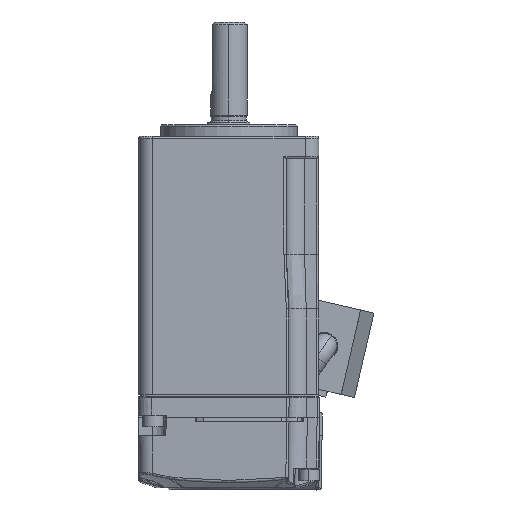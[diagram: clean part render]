
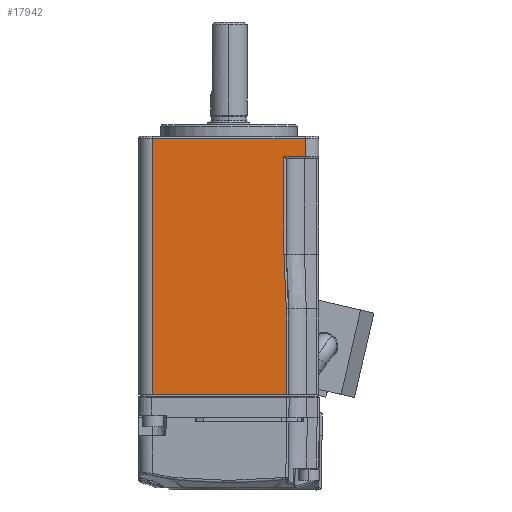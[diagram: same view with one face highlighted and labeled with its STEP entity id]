
A CAD part, front view. The second image highlights one B-rep face of the part: STEP entity #17942.
In plain terms, the highlighted planar face has unit normal (0, -1, 0).
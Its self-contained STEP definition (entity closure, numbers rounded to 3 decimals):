
#971=DIRECTION('',(-1.,0.,0.));
#972=VECTOR('',#971,29.354);
#973=CARTESIAN_POINT('',(33.973,2.019,-81.909));
#974=LINE('',#973,#972);
#975=DIRECTION('',(0.,0.,1.));
#976=VECTOR('',#975,56.2);
#977=CARTESIAN_POINT('',(4.619,2.019,-81.909));
#978=LINE('',#977,#976);
#979=DIRECTION('',(1.,0.,0.));
#980=VECTOR('',#979,33.5);
#981=CARTESIAN_POINT('',(4.619,2.019,-25.709));
#982=LINE('',#981,#980);
#983=CARTESIAN_POINT('',(33.473,2.019,-51.109));
#984=CARTESIAN_POINT('',(33.473,2.019,-51.488));
#985=CARTESIAN_POINT('',(33.481,2.019,-52.245));
#986=CARTESIAN_POINT('',(33.514,2.019,-53.41));
#987=CARTESIAN_POINT('',(33.57,2.019,-54.635));
#988=CARTESIAN_POINT('',(33.646,2.019,-55.949));
#989=CARTESIAN_POINT('',(33.739,2.019,-57.364));
#990=CARTESIAN_POINT('',(33.835,2.019,-58.862));
#991=CARTESIAN_POINT('',(33.916,2.019,-60.381));
#992=CARTESIAN_POINT('',(33.963,2.019,-61.802));
#993=CARTESIAN_POINT('',(33.973,2.019,-62.7));
#994=CARTESIAN_POINT('',(33.973,2.019,-63.109));
#996=DIRECTION('',(0.,0.,1.));
#997=VECTOR('',#996,18.8);
#998=CARTESIAN_POINT('',(33.973,2.019,-81.909));
#999=LINE('',#998,#997);
#1039=DIRECTION('',(0.,0.,1.));
#1040=VECTOR('',#1039,21.4);
#1041=CARTESIAN_POINT('',(33.473,2.019,-51.109));
#1042=LINE('',#1041,#1040);
#1043=DIRECTION('',(1.,0.,0.));
#1044=VECTOR('',#1043,4.646);
#1045=CARTESIAN_POINT('',(33.473,2.019,-29.709));
#1046=LINE('',#1045,#1044);
#1136=DIRECTION('',(0.,0.,1.));
#1137=VECTOR('',#1136,4.);
#1138=CARTESIAN_POINT('',(38.119,2.019,-29.709));
#1139=LINE('',#1138,#1137);
#14163=CARTESIAN_POINT('',(4.619,2.019,
-25.709));
#14164=VERTEX_POINT('',#14163);
#14165=CARTESIAN_POINT('',(38.119,2.019,
-25.709));
#14166=VERTEX_POINT('',#14165);
#14176=CARTESIAN_POINT('',(4.619,2.019,
-81.909));
#14178=VERTEX_POINT('',#14176);
#14179=CARTESIAN_POINT('',(33.973,2.019,
-81.909));
#14181=VERTEX_POINT('',#14179);
#14212=CARTESIAN_POINT('',(33.973,2.019,
-63.109));
#14213=VERTEX_POINT('',#14212);
#14214=CARTESIAN_POINT('',(38.119,2.019,
-29.709));
#14215=VERTEX_POINT('',#14214);
#14216=CARTESIAN_POINT('',(33.473,2.019,
-29.709));
#14217=VERTEX_POINT('',#14216);
#14218=CARTESIAN_POINT('',(33.473,2.019,
-51.109));
#14219=VERTEX_POINT('',#14218);
#17922=CARTESIAN_POINT('',(21.369,2.019,
-53.809));
#17923=DIRECTION('',(0.,1.,0.));
#17924=DIRECTION('',(1.,0.,0.));
#17925=AXIS2_PLACEMENT_3D('',#17922,#17923,#17924);
#17926=PLANE('',#17925);
#17928=ORIENTED_EDGE('',*,*,#17927,.F.);
#17929=ORIENTED_EDGE('',*,*,#17565,.T.);
#17930=ORIENTED_EDGE('',*,*,#17915,.T.);
#17931=ORIENTED_EDGE('',*,*,#17480,.T.);
#17933=ORIENTED_EDGE('',*,*,#17932,.F.);
#17935=ORIENTED_EDGE('',*,*,#17934,.F.);
#17937=ORIENTED_EDGE('',*,*,#17936,.F.);
#17939=ORIENTED_EDGE('',*,*,#17938,.T.);
#17940=EDGE_LOOP('',(#17928,#17929,#17930,#17931,#17933,#17935,#17937,#17939));
#17941=FACE_OUTER_BOUND('',#17940,.F.);
#17942=ADVANCED_FACE('',(#17941),#17926,.F.);
#995=B_SPLINE_CURVE_WITH_KNOTS('',3,(#983,#984,#985,#986,#987,#988,#989,#990,
#991,#992,#993,#994),.UNSPECIFIED.,.F.,.F.,(4,1,1,1,1,1,1,1,1,4),(0.,
0.094,0.189,0.29,0.4,
0.517,0.644,0.775,0.897,1.),
.UNSPECIFIED.);
#17480=EDGE_CURVE('',#14164,#14166,#982,.T.);
#17565=EDGE_CURVE('',#14181,#14178,#974,.T.);
#17915=EDGE_CURVE('',#14178,#14164,#978,.T.);
#17927=EDGE_CURVE('',#14181,#14213,#999,.T.);
#17932=EDGE_CURVE('',#14215,#14166,#1139,.T.);
#17934=EDGE_CURVE('',#14217,#14215,#1046,.T.);
#17936=EDGE_CURVE('',#14219,#14217,#1042,.T.);
#17938=EDGE_CURVE('',#14219,#14213,#995,.T.);
